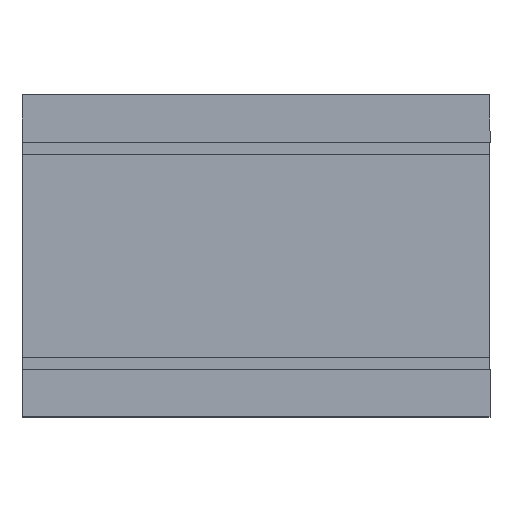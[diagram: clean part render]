
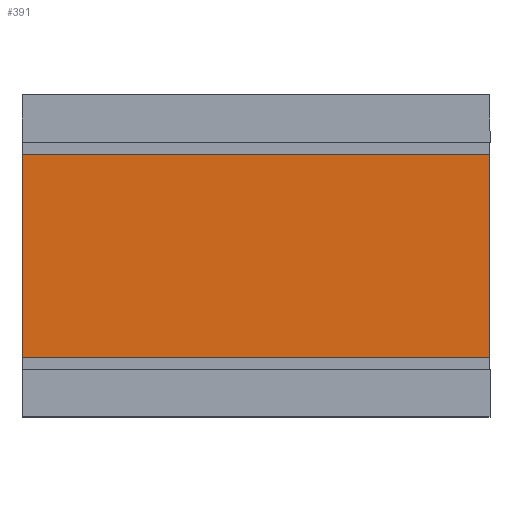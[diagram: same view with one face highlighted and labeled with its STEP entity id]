
A CAD part, top view. The second image highlights one B-rep face of the part: STEP entity #391.
In plain terms, the highlighted planar face has unit normal (0, 0, 1).
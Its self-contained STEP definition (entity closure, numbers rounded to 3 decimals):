
#192=CARTESIAN_POINT('',(0.0,241.142,3.4));
#193=VERTEX_POINT('',#192);
#202=CARTESIAN_POINT('',(500.0,241.142,3.4));
#203=VERTEX_POINT('',#202);
#204=CARTESIAN_POINT('',(500.0,241.142,3.4));
#205=DIRECTION('',(-1.0,0.0,0.0));
#206=VECTOR('',#205,500.0);
#207=LINE('',#204,#206);
#208=EDGE_CURVE('',#203,#193,#207,.T.);
#234=CARTESIAN_POINT('',(0.0,23.858,3.4));
#235=VERTEX_POINT('',#234);
#250=CARTESIAN_POINT('',(500.0,23.858,3.4));
#251=VERTEX_POINT('',#250);
#258=CARTESIAN_POINT('',(0.0,23.858,3.4));
#259=DIRECTION('',(1.0,0.0,0.0));
#260=VECTOR('',#259,500.0);
#261=LINE('',#258,#260);
#262=EDGE_CURVE('',#235,#251,#261,.T.);
#311=CARTESIAN_POINT('',(0.0,241.142,3.4));
#312=DIRECTION('',(0.0,-1.0,0.0));
#313=VECTOR('',#312,217.285);
#314=LINE('',#311,#313);
#315=EDGE_CURVE('',#193,#235,#314,.T.);
#375=CARTESIAN_POINT('',(0.0,-39.5,3.4));
#376=DIRECTION('',(0.0,0.0,1.0));
#377=DIRECTION('',(1.0,0.0,0.0));
#378=AXIS2_PLACEMENT_3D('',#375,#376,#377);
#379=PLANE('',#378);
#380=ORIENTED_EDGE('',*,*,#208,.T.);
#381=ORIENTED_EDGE('',*,*,#315,.T.);
#382=ORIENTED_EDGE('',*,*,#262,.T.);
#383=CARTESIAN_POINT('',(500.0,23.858,3.4));
#384=DIRECTION('',(0.0,1.0,0.0));
#385=VECTOR('',#384,217.285);
#386=LINE('',#383,#385);
#387=EDGE_CURVE('',#251,#203,#386,.T.);
#388=ORIENTED_EDGE('',*,*,#387,.T.);
#389=EDGE_LOOP('',(#380,#381,#382,#388));
#390=FACE_OUTER_BOUND('',#389,.T.);
#391=ADVANCED_FACE('',(#390),#379,.T.);
